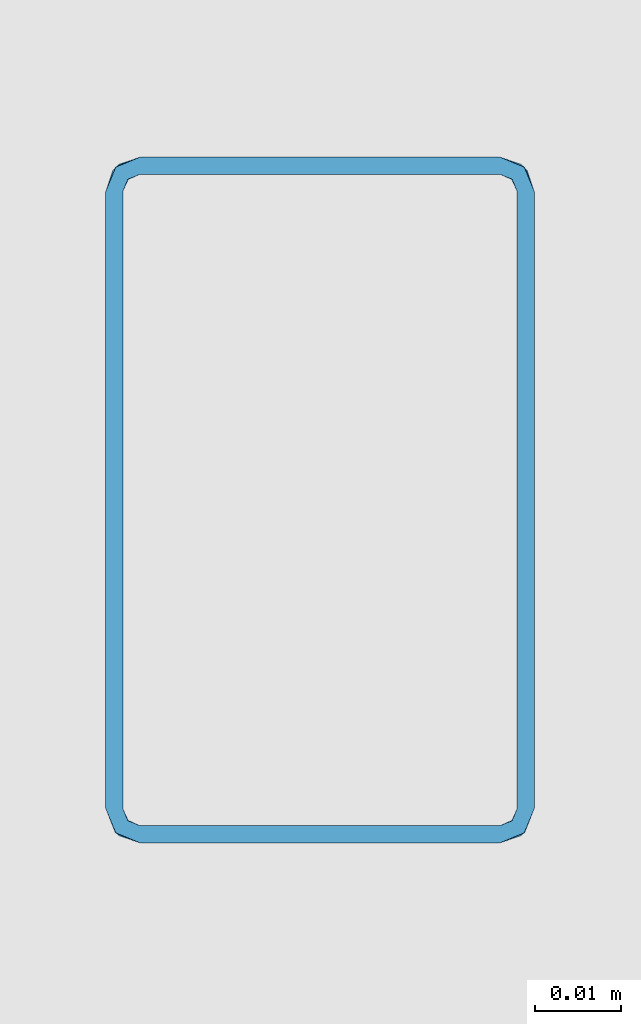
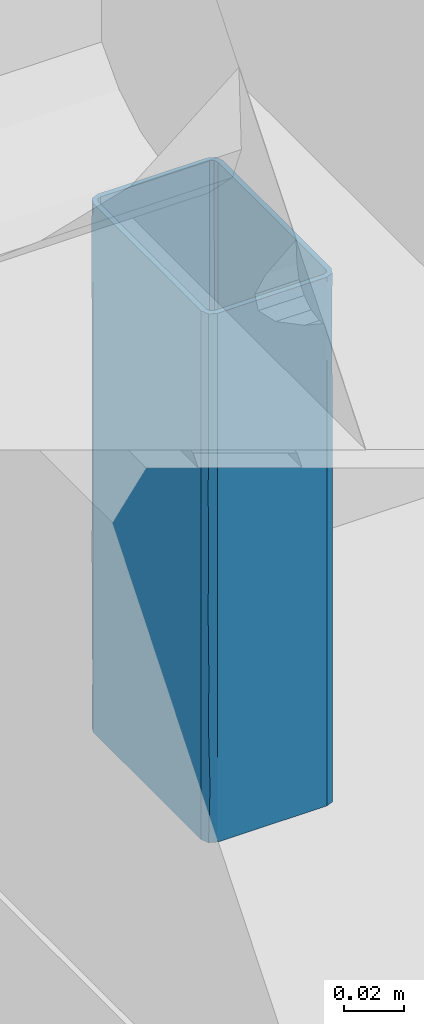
# One storey, part 186 of 230: 1 beam.
"""IFC4X3_ADD2 building model written with IfcOpenShell, lengths in millimetres."""

from ifc_helpers import new_model, si_unit, direction, origin_with_axes, place, context, subcontext, project, spatial, polygons, element, save


model = new_model("IFC4X3_ADD2")

# Units and contexts
model_context = context("Model", 3, precision=1e-05, world=origin_with_axes(), true_north=direction((0.0, 1.0)))
body_context = subcontext(model_context, "Body", "Model", "MODEL_VIEW")
ifc_project = project(units=[si_unit("LENGTHUNIT", "METRE", prefix="MILLI"), si_unit("AREAUNIT", "SQUARE_METRE"), si_unit("VOLUMEUNIT", "CUBIC_METRE"), si_unit("PLANEANGLEUNIT", "RADIAN"), si_unit("TIMEUNIT", "SECOND"), si_unit("MASSUNIT", "GRAM")], contexts=[model_context])

# Site, building, storey
site_placement = place(None, origin_with_axes())
site = spatial("IfcSite", under=ifc_project, at=site_placement, Name="Site", CompositionType="ELEMENT")
building_placement = place(site_placement, origin_with_axes())
building = spatial("IfcBuilding", under=site, at=building_placement, Name="IFC Building Story")
storey_placement = place(building_placement, origin_with_axes())
storey = spatial("IfcBuildingStorey", under=building, at=storey_placement, Name="ETAGE 00 (0)", Elevation=0.0)

# Beam
beam_placement = place(storey_placement, origin_with_axes())
element("IfcBeam", 1, at=beam_placement, inside=storey, Name="PS9", ObjectType="K50*80*2", context=body_context, shape_type="Tessellation", body=[
    polygons([(48243.68600000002, -161.0, 3775.0), (48245.68600000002, -161.0, 3775.0), (48243.10021356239, -162.4142135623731, 3775.0), (48245.68600000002, -88.99999999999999, 3775.0), (48243.68600000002, -89.0, 3775.0), (48243.10021356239, -87.5857864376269, 3775.0), (48244.51442712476, -86.17157287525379, 3775.0), (48241.68600000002, -85.0, 3775.0), (48241.68600000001, -87.0, 3775.0), (48199.68600000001, -87.0, 3775.0), (48199.68600000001, -85.0, 3775.0), (48198.27178643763, -87.5857864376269, 3775.0), (48196.85757287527, -86.17157287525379, 3775.0), (48195.68600000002, -88.99999999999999, 3775.0), (48197.68600000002, -88.99999999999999, 3775.0), (48197.68600000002, -161.0, 3775.0), (48195.68600000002, -161.0, 3775.0), (48198.27178643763, -162.4142135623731, 3775.0), (48196.85757287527, -163.8284271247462, 3775.0), (48199.68600000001, -165.0, 3775.0), (48199.68600000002, -163.0, 3775.0), (48241.68600000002, -165.0, 3775.0), (48241.68600000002, -163.0, 3775.0), (48244.51442712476, -163.8284271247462, 3775.0), (48197.68600000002, -161.0, 3990.0), (48195.68600000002, -161.0, 3990.0), (48198.27178643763, -162.4142135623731, 3990.0), (48195.68600000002, -88.99999999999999, 3990.0), (48197.68600000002, -88.99999999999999, 3990.0), (48198.27178643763, -87.5857864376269, 3990.0), (48196.85757287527, -86.17157287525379, 3990.0), (48199.68600000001, -85.0, 3990.0), (48199.68600000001, -87.0, 3990.0), (48241.68600000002, -87.0, 3990.0), (48241.68600000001, -85.0, 3990.0), (48243.10021356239, -87.5857864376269, 3990.0), (48244.51442712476, -86.17157287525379, 3990.0), (48245.68600000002, -88.99999999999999, 3990.0), (48243.68600000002, -88.99999999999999, 3990.0), (48243.68600000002, -161.0, 3990.0), (48245.68600000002, -161.0, 3990.0), (48243.10021356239, -162.4142135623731, 3990.0), (48244.51442712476, -163.8284271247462, 3990.0), (48241.68600000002, -165.0, 3990.0), (48241.68600000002, -163.0, 3990.0), (48199.68600000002, -165.0, 3990.0), (48199.68600000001, -163.0, 3990.0), (48196.85757287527, -163.8284271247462, 3990.0), (48245.68600000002, -88.99999999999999, 3809.917044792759), (48245.68600000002, -88.99999999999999, 3844.834089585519), (48245.68600000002, -88.99999999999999, 3879.751134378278), (48245.68600000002, -88.99999999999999, 3914.668179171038), (48245.68600000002, -88.99999999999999, 3952.334089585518), (48245.68600000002, -88.99999999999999, 3972.541475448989), (48245.68600000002, -161.0, 3972.541475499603), (48245.68600000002, -161.0, 3952.33408986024), (48245.68600000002, -161.0, 3914.668181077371), (48245.68600000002, -161.0, 3879.751136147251), (48245.68600000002, -161.0, 3844.83408986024), (48245.68600000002, -161.0, 3809.91704493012), (48244.1031491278, -164.1870660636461, 3967.873818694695), (48244.46486335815, -163.8771371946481, 3945.666473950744), (48244.60346927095, -163.7364891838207, 3895.937497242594), (48244.45602678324, -163.8856457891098, 3871.663943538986), (48241.68600000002, -165.0, 3909.374999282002), (48241.68600000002, -165.0, 3882.5), (48241.68600000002, -165.0, 3955.082954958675), (48241.68600000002, -165.0, 3936.250001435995), (48244.51442711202, -163.8284271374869, 3827.375566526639), (48244.42321657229, -163.916786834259, 3919.653796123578), (48244.51442709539, -163.8284271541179, 3804.335726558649), (48241.68600000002, -165.0, 3844.83409008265), (48241.68600000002, -165.0, 3809.917045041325), (48244.58210734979, -163.7590872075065, 3849.532632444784), (48199.68600000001, -165.0, 3955.082954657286), (48199.68600000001, -165.0, 3920.165909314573), (48199.68600000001, -165.0, 3882.5), (48199.68600000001, -165.0, 3855.625), (48199.68600000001, -165.0, 3828.75), (48199.68600000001, -165.0, 3809.917045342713), (48195.68600000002, -161.0, 3920.165909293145), (48195.68600000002, -161.0, 3885.248863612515), (48196.9159731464, -163.8856457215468, 3893.336049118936), (48196.76853069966, -163.7364891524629, 3869.062497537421), (48196.90713666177, -163.8771372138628, 3819.333521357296), (48196.94878338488, -163.9167867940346, 3845.346200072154), (48195.68600000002, -161.0, 3850.331817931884), (48195.68600000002, -161.0, 3812.665908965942), (48197.26885094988, -164.1870661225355, 3797.126178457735), (48195.68600000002, -161.0, 3955.082954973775), (48196.8575729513, -163.828427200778, 3960.664264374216), (48196.85757288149, -163.8284271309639, 3937.624427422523), (48195.68600000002, -161.0, 3792.458522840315), (48196.78989282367, -163.7590873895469, 3915.467360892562), (48195.68600000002, -88.99999999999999, 3955.082955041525), (48195.68600000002, -88.99999999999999, 3936.250000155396), (48195.68600000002, -88.99999999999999, 3909.374999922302), (48195.68600000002, -88.99999999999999, 3882.500000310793), (48195.68600000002, -88.99999999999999, 3855.625000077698), (48195.68600000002, -88.99999999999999, 3828.749999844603), (48195.68600000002, -88.99999999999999, 3809.917044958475), (48196.7482124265, -86.28533534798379, 3845.577340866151), (48197.2617585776, -85.81832535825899, 3797.166760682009), (48199.68600000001, -85.0, 3952.334091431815), (48196.49893380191, -86.5828510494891, 3967.873818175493), (48199.68600000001, -85.0, 3972.541476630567), (48196.85757287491, -86.1715728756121, 3819.333521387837), (48199.68600000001, -85.0, 3809.91704469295), (48199.68600000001, -85.0, 3844.834091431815), (48196.80886268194, -86.22113676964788, 3945.666473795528), (48196.7848324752, -86.24623403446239, 3869.062497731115), (48199.68600000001, -85.0, 3914.668182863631), (48196.94951086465, -86.0825306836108, 3895.937497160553), (48196.76921319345, -86.2627833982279, 3919.653793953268), (48199.68600000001, -85.0, 3879.75113817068), (48241.68600000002, -85.0, 3955.08295453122), (48241.68600000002, -85.0, 3936.250000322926), (48241.68600000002, -85.0, 3909.375001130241), (48241.68600000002, -85.0, 3882.500000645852), (48241.68600000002, -85.0, 3855.625000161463), (48241.68600000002, -85.0, 3828.749999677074), (48241.68600000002, -85.0, 3809.91704546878), (48244.400664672, -86.06221244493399, 3845.577340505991), (48244.86767466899, -86.5757586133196, 3797.166760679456), (48244.10314896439, -85.8129338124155, 3967.873819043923), (48244.51442713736, -86.17157288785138, 3819.333521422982), (48244.60346934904, -86.2635108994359, 3895.9374973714), (48244.42321663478, -86.0832132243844, 3919.653795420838), (48244.43976600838, -86.0988325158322, 3869.062497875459), (48244.46486327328, -86.1228627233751, 3945.66647440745), (48243.68600000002, -88.99999999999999, 3787.345039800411), (48243.68600000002, -88.99999999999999, 3977.654960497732), (48243.16008456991, -87.6483067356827, 3885.294330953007), (48243.17777349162, -87.6678544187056, 3897.412200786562), (48241.68600000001, -87.0, 3895.937499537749), (48243.10021356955, -87.5857864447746, 3971.482438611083), (48243.10021356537, -87.5857864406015, 3958.277070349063), (48243.68600000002, -89.0, 3952.96488089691), (48243.68600000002, -89.0, 3965.309920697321), (48243.68600000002, -88.99999999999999, 3891.239682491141), (48241.68600000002, -87.0, 3787.34503954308), (48241.68600000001, -87.0, 3977.65496045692), (48243.68600000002, -88.99999999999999, 3833.119841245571), (48243.68600000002, -88.99999999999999, 3847.649801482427), (48243.00944979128, -87.50050653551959, 3835.468749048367), (48241.68600000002, -87.0, 3842.187500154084), (48241.68600000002, -87.0, 3828.75), (48241.68600000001, -87.0, 3965.309920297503), (48241.68600000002, -87.0, 3936.25), (48241.68600000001, -87.0, 3922.812499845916), (48243.17552068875, -87.66533595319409, 3934.447319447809), (48243.1002135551, -87.5857864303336, 3793.517559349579), (48243.02897264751, -87.51796610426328, 3805.455512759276), (48241.68600000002, -87.0, 3799.690079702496), (48243.07878915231, -87.56468178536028, 3823.199144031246), (48243.68600000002, -88.99999999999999, 3903.584722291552), (48243.02832541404, -87.51737985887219, 3873.855123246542), (48242.99646018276, -87.4891412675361, 3862.343748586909), (48243.68600000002, -88.99999999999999, 3862.179762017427), (48243.04351775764, -87.5312775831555, 3847.208930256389), (48243.68600000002, -88.99999999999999, 3804.059920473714), (48243.17144404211, -87.66080023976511, 3922.531148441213), (48243.17155326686, -87.6609214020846, 3909.326205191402), (48241.68600000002, -87.0, 3909.374999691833), (48243.68600000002, -89.0, 3940.619841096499), (48243.17089399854, -87.6601903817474, 3946.373334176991), (48241.68600000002, -87.0, 3950.779960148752), (48241.68600000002, -87.0, 3882.5), (48243.68600000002, -88.99999999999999, 3876.709722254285), (48241.68600000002, -87.0, 3869.062500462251), (48241.68600000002, -87.0, 3855.625000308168), (48243.68600000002, -88.99999999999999, 3915.92976179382), (48243.68600000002, -89.0, 3928.274801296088), (48241.68600000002, -87.0, 3814.220039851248), (48243.68600000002, -88.99999999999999, 3818.589881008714), (48199.68600000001, -87.0, 3977.654960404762), (48199.68600000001, -87.0, 3963.125000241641), (48199.68600000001, -87.0, 3949.687500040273), (48199.68600000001, -87.0, 3936.249999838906), (48199.68600000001, -87.0, 3922.812499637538), (48199.68600000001, -87.0, 3909.375000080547), (48199.68600000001, -87.0, 3895.937500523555), (48199.68600000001, -87.0, 3882.500000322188), (48199.68600000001, -87.0, 3867.970040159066), (48199.68600000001, -87.0, 3853.44007935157), (48199.68600000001, -87.0, 3838.910118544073), (48199.68600000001, -87.0, 3824.380158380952), (48199.68600000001, -87.0, 3812.035118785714), (48199.68600000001, -87.0, 3799.690079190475), (48199.68600000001, -87.0, 3787.345039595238), (48197.68600000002, -88.99999999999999, 3847.649801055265), (48197.68600000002, -88.99999999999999, 3833.119841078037), (48198.30008134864, -87.55804664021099, 3849.456469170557), (48197.68600000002, -88.99999999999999, 3862.179762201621), (48198.31509085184, -87.54376921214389, 3829.848143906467), (48198.2119153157, -87.64830686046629, 3885.2943310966), (48198.19422639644, -87.6678545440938, 3897.412201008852), (48197.68600000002, -88.99999999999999, 3818.589881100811), (48197.68600000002, -88.99999999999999, 3977.654960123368), (48197.68600000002, -88.99999999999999, 3787.345038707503), (48198.27178643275, -87.58578644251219, 3793.517559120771), (48198.27178645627, -87.5857864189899, 3971.482439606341), (48198.34589603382, -87.51537164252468, 3817.793365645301), (48198.35133599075, -87.51047927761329, 3805.862598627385), (48197.68600000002, -88.99999999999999, 3804.059919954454), (48198.19073410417, -87.6717756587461, 3922.102280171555), (48198.20044662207, -87.6609215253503, 3909.326205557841), (48198.30921448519, -87.54932372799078, 3873.290866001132), (48197.68600000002, -88.99999999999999, 3876.709722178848), (48198.203418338, -87.65763208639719, 3934.82470770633), (48197.68600000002, -88.99999999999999, 3952.964881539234), (48197.68600000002, -88.99999999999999, 3940.619841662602), (48198.20729395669, -87.6533640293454, 3946.792359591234), (48198.22331208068, -87.63598238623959, 3959.137399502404), (48197.68600000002, -88.99999999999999, 3965.309921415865), (48197.68600000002, -88.99999999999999, 3903.584722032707), (48197.68600000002, -88.99999999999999, 3891.239682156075), (48198.37960591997, -87.48562405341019, 3861.031485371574), (48197.68600000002, -88.99999999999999, 3915.929761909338), (48197.68600000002, -88.99999999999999, 3928.274801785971), (48197.68600000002, -161.0, 3977.654961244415), (48197.68600000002, -161.0, 3963.125000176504), (48197.68600000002, -161.0, 3949.687499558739), (48197.68600000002, -161.0, 3936.249998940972), (48197.68600000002, -161.0, 3922.812499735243), (48197.68600000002, -161.0, 3909.374999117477), (48197.68600000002, -161.0, 3895.93749849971), (48197.68600000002, -161.0, 3882.499999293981), (48197.68600000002, -161.0, 3867.970038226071), (48197.68600000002, -161.0, 3853.440078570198), (48197.68600000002, -161.0, 3838.910118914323), (48197.68600000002, -161.0, 3824.380157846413), (48197.68600000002, -161.0, 3812.035117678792), (48197.68600000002, -161.0, 3799.690078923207), (48197.68600000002, -161.0, 3787.345040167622), (48199.68600000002, -163.0, 3952.964881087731), (48199.68600000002, -163.0, 3940.619841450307), (48198.33936401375, -162.4787060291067, 3946.792360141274), (48198.24404663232, -162.3859186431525, 3849.456469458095), (48199.68600000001, -163.0, 3833.119841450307), (48198.229769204, -162.3709091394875, 3829.848143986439), (48198.33430683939, -162.4740846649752, 3885.294331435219), (48198.35385451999, -162.4917735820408, 3897.412201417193), (48199.68600000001, -163.0, 3818.589881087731), (48199.68600000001, -163.0, 3847.649801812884), (48199.68600000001, -163.0, 3862.179762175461), (48199.68600000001, -163.0, 3787.345039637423), (48198.27178643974, -162.4142135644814, 3793.517559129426), (48199.68600000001, -163.0, 3804.059920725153), (48199.68600000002, -163.0, 3977.654960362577), (48198.32198238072, -162.4626879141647, 3959.137400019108), (48198.20137163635, -162.3401039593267, 3817.79336568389), (48198.19647927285, -162.3346640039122, 3805.862598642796), (48198.35777563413, -162.4952658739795, 3922.102280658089), (48198.34692150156, -162.4855533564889, 3909.326206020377), (48198.2353237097, -162.3767854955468, 3873.290866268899), (48199.68600000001, -163.0, 3876.709722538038), (48198.34363206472, -162.4825816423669, 3934.82470822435), (48198.27178642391, -162.4142135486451, 3971.482439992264), (48199.68600000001, -163.0, 3965.309920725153), (48199.68600000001, -163.0, 3903.584722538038), (48199.68600000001, -163.0, 3891.239682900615), (48198.17162404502, -162.3063940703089, 3861.031485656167), (48199.68600000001, -163.0, 3915.929762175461), (48199.68600000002, -163.0, 3928.274801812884), (48241.68600000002, -163.0, 3977.65496031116), (48241.68600000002, -163.0, 3965.30992062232), (48241.68600000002, -163.0, 3952.96488093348), (48241.68600000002, -163.0, 3940.61984124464), (48241.68600000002, -163.0, 3928.2748015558), (48241.68600000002, -163.0, 3915.92976186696), (48241.68600000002, -163.0, 3903.58472217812), (48241.68600000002, -163.0, 3891.23968248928), (48241.68600000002, -163.0, 3876.70972217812), (48241.68600000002, -163.0, 3862.17976186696), (48241.68600000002, -163.0, 3847.6498015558), (48241.68600000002, -163.0, 3833.11984124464), (48241.68600000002, -163.0, 3818.58988093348), (48241.68600000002, -163.0, 3804.059920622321), (48241.68600000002, -163.0, 3787.345039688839), (48243.01814552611, -162.4917735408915, 3897.412200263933), (48243.03769324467, -162.4740845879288, 3885.29433118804), (48243.10021350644, -162.4142136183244, 3971.482436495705), (48243.68600000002, -161.0, 3936.249999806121), (48243.68600000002, -161.0, 3922.812499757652), (48243.02066398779, -162.4895207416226, 3934.447318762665), (48243.10021350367, -162.4142136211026, 3958.277070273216), (48243.68600000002, -161.0, 3787.345040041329), (48243.10021356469, -162.4142135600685, 3793.517559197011), (48243.68600000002, -161.0, 3799.690079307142), (48243.68600000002, -161.0, 3977.654960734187), (48243.18549344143, -162.3234498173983, 3835.46874861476), (48243.68600000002, -161.0, 3895.937499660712), (48243.68600000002, -161.0, 3965.309920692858), (48243.68600000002, -161.0, 3950.779960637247), (48243.68600000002, -161.0, 3842.187499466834), (48243.68600000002, -161.0, 3828.749999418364), (48243.16803387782, -162.3429726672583, 3805.45551234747), (48243.12131818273, -162.3927891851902, 3823.199143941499), (48243.16862001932, -162.3423255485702, 3873.855123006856), (48243.19685869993, -162.3104602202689, 3862.343748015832), (48243.1547223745, -162.3575178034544, 3847.208929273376), (48243.02519973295, -162.4854440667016, 3922.531149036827), (48243.02507856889, -162.485553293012, 3909.326203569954), (48243.68600000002, -161.0, 3909.374999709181), (48243.02580971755, -162.4848939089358, 3946.373333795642), (48243.68600000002, -161.0, 3882.499999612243), (48243.68600000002, -161.0, 3869.062499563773), (48243.68600000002, -161.0, 3855.624999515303), (48243.68600000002, -161.0, 3814.220039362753)], [[[1, 2, 3]], [[2, 1, 4]], [[5, 4, 1]], [[6, 4, 5]], [[7, 4, 6]], [[6, 8, 7]], [[6, 9, 8]], [[8, 9, 10]], [[10, 11, 8]], [[10, 12, 11]], [[11, 12, 13]], [[14, 13, 12]], [[14, 12, 15]], [[14, 15, 16]], [[16, 17, 14]], [[18, 17, 16]], [[17, 18, 19]], [[18, 20, 19]], [[21, 20, 18]], [[20, 21, 22]], [[23, 22, 21]], [[3, 22, 23]], [[22, 3, 24]], [[3, 2, 24]], [[25, 26, 27]], [[26, 25, 28]], [[29, 28, 25]], [[30, 28, 29]], [[31, 28, 30]], [[30, 32, 31]], [[30, 33, 32]], [[32, 33, 34]], [[34, 35, 32]], [[34, 36, 35]], [[35, 36, 37]], [[38, 37, 36]], [[38, 36, 39]], [[38, 39, 40]], [[40, 41, 38]], [[42, 41, 40]], [[41, 42, 43]], [[42, 44, 43]], [[45, 44, 42]], [[44, 45, 46]], [[47, 46, 45]], [[27, 46, 47]], [[46, 27, 48]], [[27, 26, 48]], [[54, 38, 41]], [[54, 41, 55]], [[55, 56, 53]], [[55, 53, 54]], [[56, 57, 52]], [[56, 52, 53]], [[57, 58, 51]], [[57, 51, 52]], [[58, 59, 50]], [[58, 50, 51]], [[59, 60, 49]], [[59, 49, 50]], [[60, 2, 4]], [[60, 4, 49]], [[61, 62, 56]], [[58, 63, 64]], [[59, 58, 64]], [[57, 56, 62]], [[63, 65, 66]], [[62, 67, 68]], [[59, 69, 60]], [[70, 68, 65]], [[60, 69, 71, 2]], [[69, 72, 73]], [[55, 43, 61]], [[71, 22, 24]], [[66, 64, 63]], [[62, 61, 67]], [[55, 61, 56]], [[65, 63, 70]], [[58, 57, 63]], [[70, 63, 57]], [[43, 55, 41]], [[2, 71, 24]], [[44, 67, 61]], [[44, 61, 43]], [[66, 72, 64]], [[72, 69, 74]], [[57, 62, 70]], [[68, 70, 62]], [[69, 59, 74]], [[71, 69, 73]], [[22, 71, 73]], [[59, 64, 74]], [[72, 74, 64]], [[67, 44, 46]], [[67, 46, 75]], [[75, 76, 68]], [[75, 68, 67]], [[76, 65, 68]], [[76, 77, 66]], [[76, 66, 65]], [[77, 78, 72]], [[77, 72, 66]], [[79, 80, 73]], [[79, 73, 72]], [[72, 78, 79]], [[80, 20, 22]], [[80, 22, 73]], [[81, 82, 83]], [[82, 84, 83]], [[79, 85, 80]], [[86, 79, 78]], [[87, 88, 85]], [[84, 78, 77]], [[80, 85, 89]], [[26, 90, 91]], [[90, 92, 91]], [[92, 75, 91]], [[81, 92, 90]], [[19, 93, 17]], [[93, 19, 89]], [[46, 48, 91]], [[89, 85, 88]], [[77, 83, 84]], [[93, 89, 88]], [[78, 84, 86]], [[82, 87, 84]], [[86, 84, 87]], [[20, 80, 89]], [[20, 89, 19]], [[77, 76, 83]], [[76, 92, 94]], [[87, 85, 86]], [[79, 86, 85]], [[94, 92, 81]], [[75, 92, 76]], [[46, 91, 75]], [[26, 91, 48]], [[81, 83, 94]], [[76, 94, 83]], [[90, 26, 28]], [[90, 28, 95]], [[96, 97, 81]], [[81, 90, 95]], [[81, 95, 96]], [[97, 98, 82]], [[97, 82, 81]], [[98, 99, 87]], [[98, 87, 82]], [[100, 101, 88]], [[88, 87, 99]], [[88, 99, 100]], [[101, 93, 88]], [[101, 14, 17]], [[101, 17, 93]], [[100, 99, 102]], [[14, 101, 103]], [[104, 105, 106]], [[107, 103, 101]], [[31, 32, 106]], [[108, 107, 109]], [[95, 110, 96]], [[100, 107, 101]], [[99, 98, 111]], [[112, 113, 114]], [[104, 110, 105]], [[114, 113, 97]], [[11, 13, 103]], [[99, 111, 102]], [[103, 107, 108]], [[31, 105, 28]], [[112, 110, 104]], [[113, 115, 111]], [[110, 114, 96]], [[113, 98, 97]], [[111, 109, 102]], [[112, 115, 113]], [[105, 110, 95]], [[113, 111, 98]], [[109, 111, 115]], [[28, 105, 95]], [[106, 105, 31]], [[11, 103, 108]], [[103, 13, 14]], [[109, 107, 102]], [[100, 102, 107]], [[96, 114, 97]], [[110, 112, 114]], [[106, 32, 35]], [[106, 35, 116]], [[116, 104, 106]], [[117, 118, 112]], [[117, 112, 104]], [[104, 116, 117]], [[118, 119, 115]], [[118, 115, 112]], [[119, 120, 109]], [[119, 109, 115]], [[121, 122, 108]], [[121, 108, 109]], [[109, 120, 121]], [[122, 8, 11]], [[122, 11, 108]], [[121, 120, 123]], [[4, 7, 124]], [[53, 125, 54]], [[126, 124, 122]], [[37, 38, 54]], [[122, 121, 126]], [[52, 127, 128]], [[8, 122, 124]], [[120, 119, 129]], [[116, 130, 117]], [[53, 130, 125]], [[128, 127, 118]], [[49, 126, 50]], [[120, 129, 123]], [[124, 126, 49]], [[37, 125, 35]], [[52, 130, 53]], [[127, 51, 129]], [[130, 128, 117]], [[127, 119, 118]], [[129, 50, 123]], [[52, 51, 127]], [[125, 130, 116]], [[127, 129, 119]], [[50, 129, 51]], [[35, 125, 116]], [[54, 125, 37]], [[4, 124, 49]], [[124, 7, 8]], [[50, 126, 123]], [[121, 123, 126]], [[117, 128, 118]], [[130, 52, 128]], [[131, 6, 5]], [[132, 39, 36]], [[133, 134, 135]], [[136, 137, 138]], [[136, 138, 139]], [[139, 132, 36]], [[139, 36, 136]], [[140, 134, 133]], [[141, 9, 6]], [[36, 34, 142]], [[143, 144, 145]], [[146, 147, 145]], [[137, 136, 148]], [[36, 142, 136]], [[149, 150, 151]], [[152, 153, 154]], [[155, 143, 145]], [[141, 152, 154]], [[134, 140, 156]], [[157, 158, 159]], [[160, 144, 159]], [[6, 131, 161, 152]], [[6, 152, 141]], [[142, 148, 136]], [[151, 150, 162]], [[134, 156, 163]], [[147, 155, 145]], [[163, 164, 134]], [[160, 145, 144]], [[151, 165, 166]], [[167, 166, 137]], [[166, 138, 137]], [[137, 148, 167]], [[135, 168, 133]], [[135, 134, 164]], [[133, 169, 140]], [[170, 171, 158]], [[133, 168, 157]], [[169, 157, 159]], [[162, 150, 164]], [[163, 156, 172]], [[165, 151, 173]], [[162, 164, 163]], [[162, 173, 151]], [[167, 149, 166]], [[162, 172, 173]], [[172, 162, 163]], [[149, 151, 166]], [[161, 153, 152]], [[166, 165, 138]], [[153, 174, 154]], [[161, 175, 153]], [[155, 174, 153]], [[160, 146, 145]], [[175, 143, 155]], [[175, 155, 153]], [[155, 147, 174]], [[160, 171, 146]], [[158, 171, 160]], [[157, 170, 158]], [[159, 158, 160]], [[170, 157, 168]], [[133, 157, 169]], [[142, 34, 33]], [[142, 33, 176]], [[176, 177, 148]], [[176, 148, 142]], [[177, 178, 167]], [[177, 167, 148]], [[178, 179, 149]], [[178, 149, 167]], [[179, 180, 150]], [[179, 150, 149]], [[180, 181, 164]], [[180, 164, 150]], [[181, 182, 135]], [[181, 135, 164]], [[182, 183, 168]], [[182, 168, 135]], [[183, 184, 170]], [[183, 170, 168]], [[184, 185, 171]], [[184, 171, 170]], [[185, 186, 146]], [[185, 146, 171]], [[186, 187, 147]], [[186, 147, 146]], [[187, 188, 174]], [[187, 174, 147]], [[188, 189, 154]], [[188, 154, 174]], [[189, 190, 141]], [[189, 141, 154]], [[190, 10, 9]], [[190, 9, 141]], [[191, 192, 193, 194]], [[193, 192, 195]], [[196, 183, 182]], [[182, 197, 196]], [[198, 195, 192]], [[30, 29, 199]], [[200, 15, 12, 201]], [[30, 202, 176]], [[203, 195, 198]], [[204, 205, 201]], [[181, 206, 207]], [[208, 196, 209]], [[180, 210, 206]], [[204, 188, 203]], [[204, 203, 198]], [[211, 212, 213]], [[214, 177, 202]], [[202, 199, 215]], [[189, 201, 190]], [[176, 33, 30]], [[12, 10, 190]], [[199, 202, 30]], [[216, 217, 197]], [[182, 181, 197]], [[202, 177, 176]], [[207, 197, 181]], [[188, 204, 189]], [[213, 178, 214]], [[190, 201, 12]], [[200, 201, 205]], [[215, 214, 202]], [[211, 214, 215]], [[177, 214, 178]], [[207, 216, 197]], [[209, 194, 208]], [[184, 183, 208]], [[196, 197, 217]], [[218, 208, 194]], [[196, 217, 209]], [[189, 204, 201]], [[205, 204, 198]], [[211, 213, 214]], [[178, 213, 179]], [[207, 219, 216]], [[210, 179, 213]], [[220, 219, 206]], [[219, 207, 206]], [[212, 210, 213]], [[203, 188, 187]], [[179, 210, 180]], [[210, 212, 220]], [[195, 203, 187]], [[218, 194, 193]], [[195, 187, 186]], [[220, 206, 210]], [[181, 180, 206]], [[196, 208, 183]], [[218, 184, 208]], [[218, 185, 184]], [[193, 185, 218]], [[193, 186, 185]], [[186, 193, 195]], [[199, 29, 25]], [[199, 25, 221]], [[221, 222, 215]], [[221, 215, 199]], [[222, 223, 211]], [[222, 211, 215]], [[223, 224, 212]], [[223, 212, 211]], [[224, 225, 220]], [[224, 220, 212]], [[225, 226, 219]], [[225, 219, 220]], [[226, 216, 219]], [[226, 227, 217]], [[226, 217, 216]], [[227, 228, 209]], [[227, 209, 217]], [[228, 229, 194]], [[228, 194, 209]], [[229, 230, 191]], [[229, 191, 194]], [[230, 231, 192]], [[230, 192, 191]], [[231, 232, 198]], [[231, 198, 192]], [[233, 234, 205]], [[233, 205, 198]], [[198, 232, 233]], [[234, 235, 200]], [[234, 200, 205]], [[235, 16, 15]], [[235, 15, 200]], [[236, 237, 238]], [[239, 240, 241]], [[242, 228, 227]], [[227, 243, 242]], [[244, 241, 240]], [[245, 240, 239, 246]], [[247, 21, 18]], [[247, 18, 248]], [[248, 249, 247]], [[27, 47, 250]], [[251, 238, 223]], [[252, 241, 244]], [[253, 249, 248]], [[226, 254, 255]], [[256, 242, 257]], [[225, 258, 254]], [[253, 233, 252]], [[253, 252, 244]], [[235, 234, 248]], [[248, 18, 16]], [[248, 16, 235]], [[221, 25, 27]], [[251, 222, 259]], [[250, 260, 259]], [[27, 259, 221]], [[261, 262, 243]], [[227, 226, 243]], [[250, 259, 27]], [[255, 243, 226]], [[233, 253, 234]], [[221, 259, 222]], [[260, 251, 259]], [[236, 251, 260]], [[222, 251, 223]], [[255, 261, 243]], [[257, 246, 256]], [[229, 228, 256]], [[242, 243, 262]], [[263, 256, 246]], [[242, 262, 257]], [[234, 253, 248]], [[249, 253, 244]], [[236, 238, 251]], [[223, 238, 224]], [[255, 264, 261]], [[258, 224, 238]], [[265, 264, 254]], [[264, 255, 254]], [[237, 258, 238]], [[252, 233, 232]], [[224, 258, 225]], [[258, 237, 265]], [[241, 252, 232]], [[263, 246, 239]], [[241, 232, 231]], [[265, 254, 258]], [[226, 225, 254]], [[242, 256, 228]], [[263, 229, 256]], [[263, 230, 229]], [[239, 230, 263]], [[239, 231, 230]], [[231, 239, 241]], [[250, 47, 45]], [[250, 45, 266]], [[266, 267, 260]], [[266, 260, 250]], [[267, 268, 236]], [[267, 236, 260]], [[268, 269, 237]], [[268, 237, 236]], [[269, 270, 265]], [[269, 265, 237]], [[270, 271, 264]], [[270, 264, 265]], [[271, 272, 261]], [[271, 261, 264]], [[272, 273, 262]], [[272, 262, 261]], [[273, 274, 257]], [[273, 257, 262]], [[274, 275, 246]], [[274, 246, 257]], [[275, 276, 245]], [[275, 245, 246]], [[276, 277, 240]], [[276, 240, 245]], [[277, 278, 244]], [[277, 244, 240]], [[278, 279, 249]], [[278, 249, 244]], [[279, 280, 247]], [[279, 247, 249]], [[280, 23, 21]], [[280, 21, 247]], [[280, 3, 23]], [[266, 45, 42]], [[273, 281, 282]], [[42, 283, 266]], [[284, 285, 286]], [[267, 266, 283]], [[283, 287, 268]], [[283, 268, 267]], [[288, 1, 3]], [[288, 3, 289]], [[289, 290, 288]], [[42, 40, 291]], [[277, 276, 292]], [[282, 281, 293]], [[294, 295, 287]], [[294, 287, 283]], [[283, 291, 294]], [[296, 297, 292]], [[289, 298, 290]], [[299, 277, 292]], [[281, 273, 272]], [[300, 301, 275]], [[302, 276, 275]], [[289, 3, 280, 279]], [[286, 285, 303]], [[281, 272, 304]], [[297, 299, 292]], [[304, 305, 281]], [[302, 292, 276]], [[42, 291, 283]], [[286, 269, 306]], [[295, 306, 287]], [[306, 268, 287]], [[293, 307, 282]], [[293, 281, 305]], [[282, 274, 273]], [[308, 309, 301]], [[282, 307, 300]], [[274, 300, 275]], [[303, 285, 305]], [[304, 272, 271]], [[269, 286, 270]], [[303, 305, 304]], [[303, 270, 286]], [[295, 284, 306]], [[303, 271, 270]], [[271, 303, 304]], [[284, 286, 306]], [[279, 298, 289]], [[306, 269, 268]], [[298, 310, 290]], [[279, 278, 298]], [[299, 310, 298]], [[302, 296, 292]], [[278, 277, 299]], [[278, 299, 298]], [[299, 297, 310]], [[302, 309, 296]], [[301, 309, 302]], [[300, 308, 301]], [[275, 301, 302]], [[308, 300, 307]], [[282, 300, 274]], [[291, 40, 39]], [[291, 39, 132]], [[132, 139, 294]], [[132, 294, 291]], [[139, 138, 295]], [[139, 295, 294]], [[138, 165, 284]], [[138, 284, 295]], [[165, 173, 285]], [[165, 285, 284]], [[172, 156, 305]], [[305, 285, 173]], [[305, 173, 172]], [[156, 140, 293]], [[156, 293, 305]], [[140, 169, 307]], [[140, 307, 293]], [[169, 159, 308]], [[169, 308, 307]], [[159, 309, 308]], [[159, 144, 296]], [[159, 296, 309]], [[144, 143, 297]], [[144, 297, 296]], [[143, 175, 310]], [[143, 310, 297]], [[175, 161, 290]], [[175, 290, 310]], [[161, 131, 288]], [[161, 288, 290]], [[131, 5, 1]], [[131, 1, 288]]]),
])

save(model, "model.ifc")
